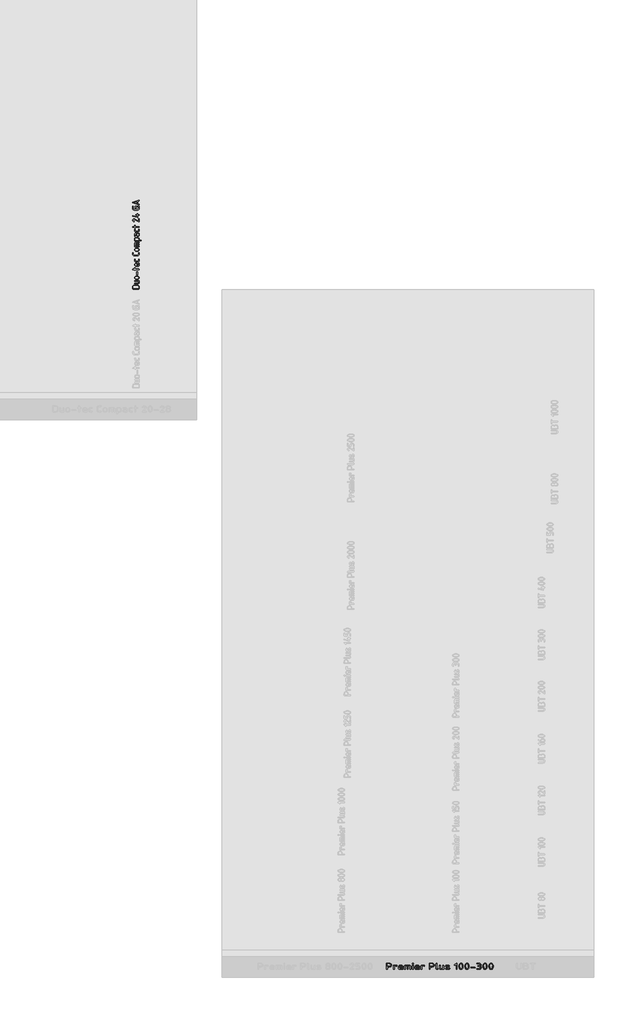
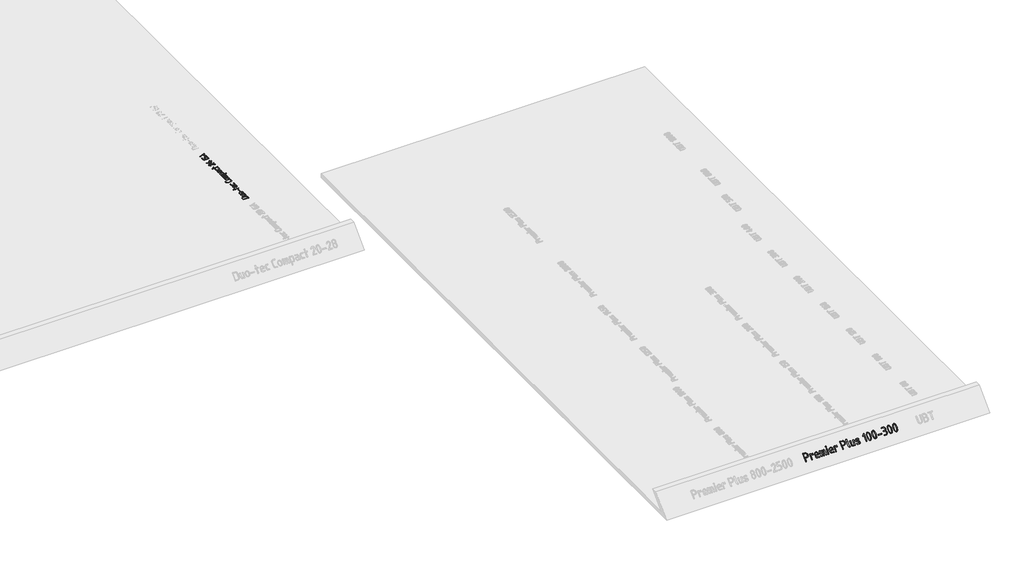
# One storey, part 28 of 37: 2 proxies.
"""IFC4 building model written with IfcOpenShell, lengths in millimetres."""

from ifc_helpers import new_model, si_unit, frame, origin, place, context, project, spatial, polyline, outline, extrude, element, save

model = new_model("IFC4")

# Units and contexts
model_context = context("Model", 3, world=origin())
ifc_project = project(units=[si_unit("LENGTHUNIT", "METRE", prefix="MILLI")], contexts=[model_context])

# Site, building, storey
site = spatial("IfcSite", under=ifc_project)
building = spatial("IfcBuilding", under=site)
storey = spatial("IfcBuildingStorey", under=building, Name="01_Стартовый вид_Площадка", Elevation=0.0)

# Proxies
placement = place(None, origin())
element("IfcBuildingElementProxy", 1, Name="150 мм", ObjectType="150 мм", at=placement, inside=storey, context=model_context, shape_type="SweptSolid", body=[
    extrude(outline(polyline([(25779.2874063, -2242.2009827), (25773.6242667, -2240.3332453), (25771.7365535, -2234.7300331), (25771.7365535, -2189.9842387), (25774.4632504, -2175.5117709), (25782.6433409, -2163.4963266), (25794.7986158, -2155.4061271), (25809.4508659, -2152.709394), (25884.8794906, -2152.709394), (25899.3819222, -2155.4360908), (25911.5671608, -2163.6161814), (25919.8371424, -2175.6615894), (25922.593803, -2189.9842387), (25922.593803, -2234.7300331), (25920.7060898, -2240.3332453), (25915.0429502, -2242.2009827), (25779.2874063, -2242.2009827)]), holes=[polyline([(25787.0779687, -2226.8595675), (25907.2523878, -2226.8595675), (25907.2523878, -2190.1040935), (25905.6043842, -2181.62936), (25900.6603734, -2174.5029929), (25893.3791939, -2169.6638551), (25884.7196842, -2168.0508092), (25809.6106723, -2168.0508092), (25800.9511625, -2169.6638551), (25793.6699831, -2174.5029929), (25788.7259723, -2181.62936), (25787.0779687, -2190.1040935), (25787.0779687, -2226.8595675)])]), frame((0.0, 0.0, -10.0), z_axis=(0.0, 0.0, 1.0), x_axis=(1.0, 0.0, 0.0)), (0.0, 0.0, 1.0), 10.0),
    extrude(outline(polyline([(25825.2317487, -2047.8763901), (25915.1228534, -2047.8763901), (25920.7260656, -2049.7341396), (25922.593803, -2055.3073881), (25922.593803, -2092.3824749), (25920.4264285, -2103.8785484), (25913.9243053, -2113.4369692), (25904.2660055, -2119.879165), (25892.6301014, -2122.0265636), (25825.2317487, -2122.0265636), (25819.6285365, -2120.1088867), (25817.7607991, -2114.355856), (25819.6285365, -2108.6028253), (25825.2317487, -2106.6851484), (25892.3504402, -2106.6851484), (25902.8377357, -2102.410327), (25907.2523878, -2092.1827169), (25907.2523878, -2063.2178053), (25825.2317487, -2063.2178053), (25819.6285365, -2061.3001284), (25817.7607991, -2055.5470977), (25819.6285365, -2049.794067), (25825.2317487, -2047.8763901)])), frame((0.0, 0.0, -10.0), z_axis=(0.0, 0.0, 1.0), x_axis=(1.0, 0.0, 0.0)), (0.0, 0.0, 1.0), 10.0),
    extrude(outline(polyline([(25885.1591518, -2017.1935598), (25855.1954503, -2017.1935598), (25840.8028856, -2014.4818448), (25828.7075381, -2006.3466998), (25820.4974839, -1994.3662131), (25817.7607991, -1980.118473), (25820.4675201, -1965.7209144), (25828.5876833, -1953.7703915), (25840.6530671, -1945.7251376), (25855.1954503, -1943.0433863), (25885.1591518, -1943.0433863), (25899.5517165, -1945.7551013), (25911.647064, -1953.8902463), (25919.8571182, -1965.8707329), (25922.593803, -1980.118473), (25919.8571182, -1994.3662131), (25911.647064, -2006.3466998), (25899.5517165, -2014.4818448), (25885.1591518, -2017.1935598)]), holes=[polyline([(25884.7196842, -1958.3848015), (25854.716031, -1958.3848015), (25846.086485, -1959.9778716), (25838.8152934, -1964.757082), (25833.8712826, -1971.78357), (25832.2232791, -1980.118473), (25833.8712826, -1988.453376), (25838.8152934, -1995.479864), (25846.086485, -2000.2590744), (25854.716031, -2001.8521446), (25884.7196842, -2001.8521446), (25893.4291334, -2000.2740563), (25900.700325, -1995.5397914), (25905.6143721, -1988.5282853), (25907.2523878, -1980.118473), (25905.6043842, -1971.78357), (25900.6603734, -1964.757082), (25893.3791939, -1959.9778716), (25884.7196842, -1958.3848015)])]), frame((0.0, 0.0, -10.0), z_axis=(0.0, 0.0, 1.0), x_axis=(1.0, 0.0, 0.0)), (0.0, 0.0, 1.0), 10.0),
    extrude(outline(polyline([(25884.240265, -1845.2019128), (25884.240265, -1905.2092191), (25882.3225881, -1910.842395), (25876.5695574, -1912.7201203), (25870.8165267, -1910.842395), (25868.8988498, -1905.2092191), (25868.8988498, -1845.2019128), (25870.8165267, -1839.5687369), (25876.5695574, -1837.6910116), (25882.3225881, -1839.5687369), (25884.240265, -1845.2019128)])), frame((0.0, 0.0, -10.0), z_axis=(0.0, 0.0, 1.0), x_axis=(1.0, 0.0, 0.0)), (0.0, 0.0, 1.0), 10.0),
    extrude(outline(polyline([(25833.1022143, -1792.1861369), (25833.1022143, -1799.697038), (25831.1845374, -1805.3302139), (25825.4315067, -1807.2079392), (25819.678476, -1805.3302139), (25817.7607991, -1799.697038), (25817.7607991, -1792.1861369), (25779.4072611, -1792.1861369), (25773.6542304, -1790.26846), (25771.7365535, -1784.5154293), (25773.6542304, -1778.7623986), (25779.4072611, -1776.8447217), (25817.7607991, -1776.8447217), (25817.7607991, -1754.3120181), (25819.678476, -1748.7088059), (25825.4315067, -1746.8410685), (25831.1845374, -1748.7088059), (25833.1022143, -1754.3120181), (25833.1022143, -1776.8447217), (25915.1228534, -1776.8447217), (25920.7260656, -1778.7623986), (25922.593803, -1784.5154293), (25920.7260656, -1790.26846), (25915.1228534, -1792.1861369), (25833.1022143, -1792.1861369)])), frame((0.0, 0.0, -10.0), z_axis=(0.0, 0.0, 1.0), x_axis=(1.0, 0.0, 0.0)), (0.0, 0.0, 1.0), 10.0),
    extrude(outline(polyline([(25876.5695574, -1702.6945482), (25891.9109726, -1702.6945482), (25902.7178809, -1698.2599204), (25907.2523878, -1687.7126974), (25907.2523878, -1650.1981431), (25909.1700647, -1644.5649672), (25914.9230954, -1642.6872419), (25920.6761261, -1644.5649672), (25922.593803, -1650.1981431), (25922.593803, -1687.7126974), (25920.4264285, -1699.3685773), (25913.9243053, -1709.1667077), (25904.2660055, -1715.8186495), (25892.6301014, -1718.0359634), (25855.1954503, -1718.0359634), (25840.8028856, -1715.2543331), (25828.7075381, -1706.9094422), (25820.4974839, -1694.6692701), (25817.7607991, -1680.2017962), (25820.4175806, -1665.6244554), (25828.3879253, -1653.5341018), (25840.2335753, -1645.3989569), (25854.516273, -1642.6872419), (25876.5695574, -1642.6872419), (25876.5695574, -1702.6945482)]), holes=[polyline([(25831.224489, -1680.2017962), (25832.8724926, -1688.8313423), (25837.8165034, -1696.1025339), (25845.0876949, -1701.0465446), (25853.717241, -1702.6945482), (25861.2281422, -1702.6945482), (25861.2281422, -1657.7090443), (25853.717241, -1657.7090443), (25845.0876949, -1659.3570479), (25837.8165034, -1664.3010586), (25832.8724926, -1671.5722502), (25831.224489, -1680.2017962)])]), frame((0.0, 0.0, -10.0), z_axis=(0.0, 0.0, 1.0), x_axis=(1.0, 0.0, 0.0)), (0.0, 0.0, 1.0), 10.0),
    extrude(outline(polyline([(25847.9242587, -1597.8615444), (25892.4303434, -1597.8615444), (25902.8776873, -1593.4269165), (25907.2523878, -1582.8796936), (25907.2523878, -1560.34699), (25909.1700647, -1554.7437778), (25914.9230954, -1552.8760404), (25920.6761261, -1554.7437778), (25922.593803, -1560.34699), (25922.593803, -1582.8796936), (25920.4264285, -1594.5355735), (25913.9243053, -1604.3337039), (25904.2660055, -1610.9856456), (25892.6301014, -1613.2029596), (25847.7245007, -1613.2029596), (25836.0885966, -1610.9856456), (25826.4302968, -1604.3337039), (25819.9281735, -1594.5355735), (25817.7607991, -1582.8796936), (25817.7607991, -1560.34699), (25819.678476, -1554.7437778), (25825.4315067, -1552.8760404), (25831.1845374, -1554.7437778), (25833.1022143, -1560.34699), (25833.1022143, -1582.8796936), (25837.4369631, -1593.4868439), (25847.9242587, -1597.8615444)])), frame((0.0, 0.0, -10.0), z_axis=(0.0, 0.0, 1.0), x_axis=(1.0, 0.0, 0.0)), (0.0, 0.0, 1.0), 10.0),
    extrude(outline(polyline([(25771.7365535, -1404.7354999), (25773.6542304, -1399.102324), (25779.4072611, -1397.2245987), (25785.1602918, -1399.102324), (25787.0779687, -1404.7354999), (25787.0779687, -1434.7391531), (25788.7259723, -1443.4436084), (25793.6699831, -1450.6998181), (25800.9511625, -1455.5988833), (25809.6106723, -1457.231905), (25884.7196842, -1457.231905), (25893.3791939, -1455.5839015), (25900.6603734, -1450.6398907), (25905.6043842, -1443.3686991), (25907.2523878, -1434.7391531), (25907.2523878, -1404.7354999), (25909.1700647, -1399.102324), (25914.9230954, -1397.2245987), (25920.6761261, -1399.102324), (25922.593803, -1404.7354999), (25922.593803, -1434.7391531), (25919.8371424, -1449.206627), (25911.5671608, -1461.4467991), (25899.3819222, -1469.7916899), (25884.8794906, -1472.5733202), (25809.4508659, -1472.5733202), (25794.9484343, -1469.7916899), (25782.7631957, -1461.4467991), (25774.4932141, -1449.206627), (25771.7365535, -1434.7391531), (25771.7365535, -1404.7354999)])), frame((0.0, 0.0, -10.0), z_axis=(0.0, 0.0, 1.0), x_axis=(1.0, 0.0, 0.0)), (0.0, 0.0, 1.0), 10.0),
    extrude(outline(polyline([(25885.1591518, -1367.7403164), (25855.1954503, -1367.7403164), (25840.8028856, -1365.0286014), (25828.7075381, -1356.8934564), (25820.4974839, -1344.9129698), (25817.7607991, -1330.6652297), (25820.4675201, -1316.2676711), (25828.5876833, -1304.3171481), (25840.6530671, -1296.2718942), (25855.1954503, -1293.5901429), (25885.1591518, -1293.5901429), (25899.5517165, -1296.3018579), (25911.647064, -1304.4370029), (25919.8571182, -1316.4174896), (25922.593803, -1330.6652297), (25919.8571182, -1344.9129698), (25911.647064, -1356.8934564), (25899.5517165, -1365.0286014), (25885.1591518, -1367.7403164)]), holes=[polyline([(25884.7196842, -1308.9315581), (25854.716031, -1308.9315581), (25846.086485, -1310.5246283), (25838.8152934, -1315.3038387), (25833.8712826, -1322.3303267), (25832.2232791, -1330.6652297), (25833.8712826, -1339.0001326), (25838.8152934, -1346.0266207), (25846.086485, -1350.8058311), (25854.716031, -1352.3989012), (25884.7196842, -1352.3989012), (25893.4291334, -1350.8208129), (25900.700325, -1346.0865481), (25905.6143721, -1339.0750419), (25907.2523878, -1330.6652297), (25905.6043842, -1322.3303267), (25900.6603734, -1315.3038387), (25893.3791939, -1310.5246283), (25884.7196842, -1308.9315581)])]), frame((0.0, 0.0, -10.0), z_axis=(0.0, 0.0, 1.0), x_axis=(1.0, 0.0, 0.0)), (0.0, 0.0, 1.0), 10.0),
    extrude(outline(polyline([(25817.7607991, -1255.2366049), (25817.7607991, -1186.2002366), (25819.9281735, -1174.2996531), (25826.4302968, -1164.4066376), (25836.0885966, -1157.739714), (25847.7245007, -1155.5174062), (25915.1228534, -1155.5174062), (25920.7260656, -1157.4350831), (25922.593803, -1163.1881138), (25920.7260656, -1168.9411445), (25915.1228534, -1170.8588214), (25848.0041619, -1170.8588214), (25837.3970115, -1175.2734734), (25833.1022143, -1186.2002366), (25833.1022143, -1201.5416518), (25915.1228534, -1201.5416518), (25920.7260656, -1203.4593287), (25922.593803, -1209.2123594), (25920.7260656, -1214.9653901), (25915.1228534, -1216.883067), (25833.1022143, -1216.883067), (25833.1022143, -1247.5658973), (25915.1228534, -1247.5658973), (25920.7260656, -1249.4835742), (25922.593803, -1255.2366049), (25920.7260656, -1260.9896356), (25915.1228534, -1262.9073125), (25825.2317487, -1262.9073125), (25819.6285365, -1260.9896356), (25817.7607991, -1255.2366049)])), frame((0.0, 0.0, -10.0), z_axis=(0.0, 0.0, 1.0), x_axis=(1.0, 0.0, 0.0)), (0.0, 0.0, 1.0), 10.0),
    extrude(outline(polyline([(25825.3116519, -1124.8345758), (25819.6485123, -1122.9768263), (25817.7607991, -1117.4035778), (25817.7607991, -1080.3284911), (25819.9281735, -1068.8324176), (25826.4302968, -1059.2739968), (25836.0885966, -1052.8318009), (25847.7245007, -1050.6844023), (25892.6301014, -1050.6844023), (25904.1910963, -1052.8168191), (25913.8643779, -1059.2140694), (25920.4114467, -1068.6975809), (25922.593803, -1080.0887814), (25922.593803, -1109.4931606), (25960.947341, -1109.4931606), (25966.7003717, -1111.4108375), (25968.6180486, -1117.1638682), (25966.7303354, -1122.9168989), (25961.0671958, -1124.8345758), (25825.3116519, -1124.8345758)]), holes=[polyline([(25833.1022143, -1109.4931606), (25907.2523878, -1109.4931606), (25907.2523878, -1080.5282491), (25902.9176389, -1070.2606873), (25892.4303434, -1066.0258175), (25847.9242587, -1066.0258175), (25837.3770357, -1070.2007599), (25833.1022143, -1080.5282491), (25833.1022143, -1109.4931606)])]), frame((0.0, 0.0, -10.0), z_axis=(0.0, 0.0, 1.0), x_axis=(1.0, 0.0, 0.0)), (0.0, 0.0, 1.0), 10.0),
    extrude(outline(polyline([(25922.593803, -991.1964668), (25920.3714951, -1002.8123951), (25913.7045715, -1012.4906707), (25903.811556, -1019.0227577), (25891.9109726, -1021.20012), (25876.4497026, -1017.2049598), (25865.0335323, -1006.4479909), (25861.2281422, -991.1964668), (25861.2281422, -961.1928137), (25847.1651782, -961.1928137), (25837.1573019, -965.5075867), (25833.1022143, -976.1746644), (25833.1022143, -1006.1783176), (25831.1845374, -1011.8114935), (25825.4315067, -1013.6892188), (25819.678476, -1011.8114935), (25817.7607991, -1006.1783176), (25817.7607991, -976.1746644), (25819.9281735, -964.4938148), (25826.4302968, -954.7006783), (25836.0885966, -948.0637184), (25847.7245007, -945.8513985), (25915.1228534, -945.8513985), (25920.7260656, -947.7690754), (25922.593803, -953.5221061), (25922.593803, -991.1964668)]), holes=[polyline([(25876.5695574, -961.1928137), (25876.5695574, -991.1964668), (25881.0441368, -1001.8036172), (25891.9109726, -1006.1783176), (25902.7178809, -1001.7436898), (25907.2523878, -991.1964668), (25907.2523878, -961.1928137), (25876.5695574, -961.1928137)])]), frame((0.0, 0.0, -10.0), z_axis=(0.0, 0.0, 1.0), x_axis=(1.0, 0.0, 0.0)), (0.0, 0.0, 1.0), 10.0),
    extrude(outline(polyline([(25847.9242587, -899.8271529), (25892.4303434, -899.8271529), (25902.8776873, -895.392525), (25907.2523878, -884.8453021), (25907.2523878, -862.3125985), (25909.1700647, -856.7093863), (25914.9230954, -854.8416489), (25920.6761261, -856.7093863), (25922.593803, -862.3125985), (25922.593803, -884.8453021), (25920.4264285, -896.501182), (25913.9243053, -906.2993124), (25904.2660055, -912.9512542), (25892.6301014, -915.1685681), (25847.7245007, -915.1685681), (25836.0885966, -912.9512542), (25826.4302968, -906.2993124), (25819.9281735, -896.501182), (25817.7607991, -884.8453021), (25817.7607991, -862.3125985), (25819.678476, -856.7093863), (25825.4315067, -854.8416489), (25831.1845374, -856.7093863), (25833.1022143, -862.3125985), (25833.1022143, -884.8453021), (25837.4369631, -895.4524524), (25847.9242587, -899.8271529)])), frame((0.0, 0.0, -10.0), z_axis=(0.0, 0.0, 1.0), x_axis=(1.0, 0.0, 0.0)), (0.0, 0.0, 1.0), 10.0),
    extrude(outline(polyline([(25833.1022143, -810.3355642), (25833.1022143, -817.8464654), (25831.1845374, -823.4796413), (25825.4315067, -825.3573666), (25819.678476, -823.4796413), (25817.7607991, -817.8464654), (25817.7607991, -810.3355642), (25779.4072611, -810.3355642), (25773.6542304, -808.4178873), (25771.7365535, -802.6648566), (25773.6542304, -796.9118259), (25779.4072611, -794.994149), (25817.7607991, -794.994149), (25817.7607991, -772.4614454), (25819.678476, -766.8582333), (25825.4315067, -764.9904959), (25831.1845374, -766.8582333), (25833.1022143, -772.4614454), (25833.1022143, -794.994149), (25915.1228534, -794.994149), (25920.7260656, -796.9118259), (25922.593803, -802.6648566), (25920.7260656, -808.4178873), (25915.1228534, -810.3355642), (25833.1022143, -810.3355642)])), frame((0.0, 0.0, -10.0), z_axis=(0.0, 0.0, 1.0), x_axis=(1.0, 0.0, 0.0)), (0.0, 0.0, 1.0), 10.0),
    extrude(outline(polyline([(25771.7365535, -647.8923502), (25774.4882201, -633.4648279), (25782.7432199, -621.3445106), (25794.9034888, -613.1194745), (25809.3709627, -610.3777958), (25820.1678831, -612.0857268), (25831.0646826, -617.2095198), (25907.2523878, -664.472265), (25907.2523878, -617.888697), (25909.1700647, -612.2555211), (25914.9230954, -610.3777958), (25920.6761261, -612.2555211), (25922.593803, -617.888697), (25922.593803, -677.8960033), (25920.7160777, -683.5291792), (25915.0829018, -685.4069045), (25910.7281771, -684.1284533), (25822.1155237, -629.1550488), (25809.6506239, -625.3995982), (25800.9861202, -627.0476018), (25793.6899589, -631.9916125), (25788.7309662, -639.2628041), (25787.0779687, -647.8923502), (25791.7922578, -660.1275283), (25805.9351249, -671.4238438), (25809.5707207, -677.8960033), (25807.6929954, -683.5291792), (25802.0598195, -685.4069045), (25798.9835461, -684.6877757), (25778.5483017, -668.5173647), (25773.4394906, -658.7616829), (25771.7365535, -647.8923502)])), frame((0.0, 0.0, -10.0), z_axis=(0.0, 0.0, 1.0), x_axis=(1.0, 0.0, 0.0)), (0.0, 0.0, 1.0), 10.0),
    extrude(outline(polyline([(25884.4000714, -581.6126423), (25882.3625397, -581.3729327), (25777.209923, -551.3692796), (25773.1048959, -548.7524496), (25771.7365535, -544.098088), (25773.6042909, -538.4649121), (25779.2075031, -536.5871868), (25781.3648896, -536.9467512), (25876.5695574, -564.1937438), (25876.5695574, -529.0762856), (25854.0368538, -529.0762856), (25848.4336416, -527.1586087), (25846.5659042, -521.405578), (25848.4336416, -515.6525473), (25854.0368538, -513.7348704), (25876.5695574, -513.7348704), (25876.5695574, -498.713068), (25878.4872343, -493.1098558), (25884.240265, -491.2421184), (25889.9932957, -493.1098558), (25891.9109726, -498.713068), (25891.9109726, -513.7348704), (25914.9230954, -513.7348704), (25920.6761261, -515.6525473), (25922.593803, -521.405578), (25920.6761261, -527.1586087), (25914.9230954, -529.0762856), (25891.9109726, -529.0762856), (25891.9109726, -574.1017411), (25890.0332473, -579.734917), (25884.4000714, -581.6126423)])), frame((0.0, 0.0, -10.0), z_axis=(0.0, 0.0, 1.0), x_axis=(1.0, 0.0, 0.0)), (0.0, 0.0, 1.0), 10.0),
    extrude(outline(polyline([(25907.2523878, -371.507167), (25907.2523878, -334.7516931), (25848.4436295, -334.7516931), (25848.4436295, -349.7734955), (25846.5259526, -355.3767077), (25840.7729219, -357.2444451), (25835.0198912, -355.3767077), (25833.1022143, -349.7734955), (25833.1022143, -327.0809855), (25834.9699517, -321.3279548), (25840.5731639, -319.4102779), (25915.1228534, -319.4102779), (25920.7260656, -321.2780153), (25922.593803, -326.8812275), (25922.593803, -371.6270218), (25919.8371424, -385.9496712), (25911.5671608, -397.9950792), (25899.3819222, -406.1751697), (25884.8794906, -408.9018665), (25809.4508659, -408.9018665), (25794.9484343, -406.1751697), (25782.7631957, -397.9950792), (25774.4932141, -385.9496712), (25771.7365535, -371.6270218), (25771.7365535, -326.8812275), (25773.6542304, -321.2780153), (25779.4072611, -319.4102779), (25785.1602918, -321.2680274), (25787.0779687, -326.8412759), (25787.0779687, -371.307409), (25788.7259723, -379.9319611), (25793.6699831, -387.1082676), (25800.9511625, -391.9474054), (25809.6106723, -393.5604514), (25884.7196842, -393.5604514), (25893.4291334, -391.9573933), (25900.700325, -387.1482192), (25905.6143721, -380.0318401), (25907.2523878, -371.507167)])), frame((0.0, 0.0, -10.0), z_axis=(0.0, 0.0, 1.0), x_axis=(1.0, 0.0, 0.0)), (0.0, 0.0, 1.0), 10.0),
    extrude(outline(polyline([(25915.0429502, -184.0542501), (25920.7060898, -185.9319754), (25922.593803, -191.5651512), (25921.285388, -196.0896702), (25917.3601431, -198.716488), (25884.240265, -209.5034206), (25884.240265, -263.5978898), (25917.3601431, -274.424774), (25921.285388, -277.0515918), (25922.593803, -281.5761107), (25920.7060898, -287.2092866), (25915.0429502, -289.0870119), (25912.645854, -288.7274475), (25777.809197, -244.0615564), (25773.2547144, -241.1650652), (25771.7365535, -236.5506552), (25773.194787, -231.9961726), (25777.5694874, -229.1995604), (25912.645854, -184.4138145), (25915.0429502, -184.0542501)]), holes=[polyline([(25802.7389967, -236.5506552), (25868.8988498, -258.6039395), (25868.8988498, -214.5373224), (25802.7389967, -236.5506552)])]), frame((0.0, 0.0, -10.0), z_axis=(0.0, 0.0, 1.0), x_axis=(1.0, 0.0, 0.0)), (0.0, 0.0, 1.0), 10.0),
])
element("IfcBuildingElementProxy", 2, Name="200мм", ObjectType="200мм", at=placement, inside=storey, context=model_context, shape_type="SweptSolid", body=[
    extrude(outline(polyline([(7.8835354, 0.0), (54.9822836, -15.8674928), (75.3551695, -27.452775), (89.3245979, -46.3241219), (95.3595376, -69.2676232), (91.9289573, -93.0693684), (80.131763, -115.1766267), (62.1553061, -129.8058847), (40.1087194, -135.8689668), (16.101136, -132.2776977), (-21.3557465, -119.6585341), (-43.2607097, -184.6780281), (-48.0307567, -190.8280684), (-56.082337, -190.701191), (-62.5480184, -185.8669629), (-62.5603687, -177.8949509), (-4.770722, -6.3606026), (0.0, 0.0), (7.8835354, 0.0)]), holes=[polyline([(11.2976149, -22.7350648), (-14.8250742, -100.2738402), (22.3289223, -112.790962), (37.668322, -114.8320671), (52.4892795, -110.4450815), (64.7838935, -100.6679697), (72.5442635, -86.5386961), (74.9157894, -70.5939297), (71.0438717, -55.3703393), (61.8989869, -42.9093), (48.4516114, -35.2521866), (11.2976149, -22.7350648)])]), frame((31672.2732822, -17888.306847, 243.3672278), z_axis=(0.0, -0.7071067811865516, 0.7071067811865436), x_axis=(0.9476648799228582, 0.22575570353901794, 0.2257557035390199)), (0.0, 0.0, 1.0), 10.0),
    extrude(outline(polyline([(119.8548062, 0.0), (127.3257559, -2.5569025), (129.8160724, -10.2276101), (129.8160724, -70.474626), (127.2591699, -77.9455756), (119.5884622, -80.4358922), (99.3463172, -80.4358922), (91.835416, -77.9455756), (89.3317822, -70.474626), (91.835416, -62.9637248), (99.3463172, -60.4600911), (109.3608521, -60.4600911), (109.3608521, -20.4552202), (0.0, -20.4552202), (-7.4709496, -17.8983177), (-9.9612661, -10.2276101), (-7.4709496, -2.5569025), (0.0, 0.0), (119.8548062, 0.0)])), frame((31830.0155244, -18021.7129939, 109.9610809), z_axis=(0.0, -0.7071067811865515, 0.7071067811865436), x_axis=(0.0, 0.7071067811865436, 0.7071067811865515)), (0.0, 0.0, 1.0), 10.0),
    extrude(outline(polyline([(80.0097418, 0.0), (80.0097418, 20.4552203), (74.0969047, 34.8644314), (67.6247451, 39.3989382), (60.0339407, 40.9104406), (10.0145349, 40.9104406), (2.5036337, 43.4673431), (0.0, 51.1380507), (2.5036337, 58.8087583), (10.0145349, 61.3656608), (60.0339407, 61.3656608), (75.5751139, 58.4758283), (88.6392878, 49.8063306), (97.5085435, 36.9285976), (100.464962, 21.4140588), (100.464962, -28.4988094), (96.7561216, -47.6888956), (85.6296005, -63.8160257), (69.309371, -74.7627647), (50.0194058, -78.4116777), (30.5829514, -74.8693022), (14.46248, -64.2421761), (3.61562, -48.4479761), (0.0, -29.4043791), (0.0, 0.0), (80.0097418, 0.0)]), holes=[polyline([(50.0194058, -60.4600911), (61.5254672, -58.2627529), (71.2203893, -51.6707387), (77.8124036, -41.9758165), (80.0097418, -30.4697552), (80.0097418, -20.4552202), (20.0290698, -20.4552202), (20.0290698, -30.4697552), (22.226408, -41.9758165), (28.8184223, -51.6707387), (38.5133444, -58.2627529), (50.0194058, -60.4600911)])]), frame((32049.8026046, -17985.3645978, 146.309477), z_axis=(0.0, -0.7071067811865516, 0.7071067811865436), x_axis=(-1.0, 0.0, 0.0)), (0.0, 0.0, 1.0), 10.0),
    extrude(outline(polyline([(8.0648268, 0.0), (95.6150095, -28.42341), (109.8146858, -36.0716859), (119.6837275, -48.3906322), (124.1620708, -63.3839269), (122.1896523, -79.055248), (94.4406404, -164.5281405), (89.7017561, -170.8444538), (81.6369293, -170.8444538), (75.110059, -166.1072188), (74.9850442, -158.2118271), (102.618915, -73.0935939), (103.6105119, -65.2736839), (101.3875031, -57.8242881), (96.4501455, -51.7058984), (89.2986962, -47.8790062), (69.8431, -41.5626929), (36.0738519, -145.5792005), (31.3349676, -151.8955138), (23.2701408, -151.8955138), (16.7432705, -147.1582788), (16.6182557, -139.2628871), (50.3875038, -35.2463795), (11.4763115, -22.6137529), (-22.2929366, -126.6302605), (-27.0318209, -132.9465738), (-35.0966477, -132.9465738), (-41.623518, -128.2093388), (-41.7485328, -120.3139471), (-4.7388844, -6.3163134), (0.0, 0.0), (8.0648268, 0.0)])), frame((32091.6718836, -17931.6800885, 199.9939863), z_axis=(0.0, -0.7071067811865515, 0.7071067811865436), x_axis=(0.951131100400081, 0.21834563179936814, 0.21834563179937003)), (0.0, 0.0, 1.0), 10.0),
    extrude(outline(polyline([(-40.4252129, 16.4627758), (-34.1768363, 11.6346677), (-34.2913698, 3.5706542), (-39.1208191, -2.8882816), (-47.0171899, -2.9011566), (-160.6290118, 35.7752083), (-166.9152084, 40.6161914), (-166.8132817, 48.6844966), (-161.9712257, 55.1391407), (-154.0370348, 55.1391407), (-40.4252129, 16.4627758)])), frame((32275.7688659, -17906.0007942, 225.6732806), z_axis=(0.0, -0.7071067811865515, 0.7071067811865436), x_axis=(-0.322263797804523, 0.6693825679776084, 0.6693825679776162)), (0.0, 0.0, 1.0), 10.0),
    extrude(outline(polyline([(7.934191, 0.0), (17.4144495, -3.2273221), (23.7006464, -8.0683052), (23.5987196, -16.1366103), (18.7566637, -22.5912544), (10.8224726, -22.5912545), (1.342214, -19.3639324), (-4.9439827, -14.5229493), (-4.842056, -6.4546441), (0.0, 0.0), (7.934191, 0.0)])), frame((32275.7688659, -17906.0007942, 225.6732806), z_axis=(0.0, -0.7071067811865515, 0.7071067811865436), x_axis=(-0.322263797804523, 0.6693825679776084, 0.6693825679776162)), (0.0, 0.0, 1.0), 10.0),
    extrude(outline(polyline([(80.0097417, 0.0), (80.0097417, 20.4552203), (74.0969046, 34.8644314), (67.6247451, 39.3989382), (60.0339407, 40.9104406), (10.0145349, 40.9104406), (2.5036337, 43.4673431), (0.0, 51.1380507), (2.5036337, 58.8087583), (10.0145349, 61.3656608), (60.0339407, 61.3656608), (75.5751139, 58.4758283), (88.6392878, 49.8063306), (97.5085434, 36.9285976), (100.464962, 21.4140588), (100.464962, -28.4988094), (96.7561216, -47.6888956), (85.6296004, -63.8160257), (69.309371, -74.7627647), (50.0194058, -78.4116777), (30.5829514, -74.8693022), (14.4624799, -64.2421761), (3.61562, -48.4479761), (0.0, -29.4043791), (0.0, 0.0), (80.0097417, 0.0)]), holes=[polyline([(50.0194058, -60.4600911), (61.5254672, -58.2627529), (71.2203893, -51.6707387), (77.8124036, -41.9758165), (80.0097417, -30.4697552), (80.0097417, -20.4552202), (20.0290698, -20.4552202), (20.0290698, -30.4697552), (22.2264079, -41.9758165), (28.8184223, -51.6707387), (38.5133444, -58.2627529), (50.0194058, -60.4600911)])]), frame((32435.0425862, -17985.3645978, 146.309477), z_axis=(0.0, -0.7071067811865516, 0.7071067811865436), x_axis=(-1.0, 0.0, 0.0)), (0.0, 0.0, 1.0), 10.0),
    extrude(outline(polyline([(119.8548062, 0.0), (127.3257559, -2.5569025), (129.8160724, -10.2276101), (129.8160724, -70.474626), (127.2591699, -77.9455756), (119.5884622, -80.4358921), (99.3463172, -80.4358921), (91.835416, -77.9455756), (89.3317822, -70.474626), (91.835416, -62.9637248), (99.3463172, -60.4600911), (109.3608521, -60.4600911), (109.3608521, -20.4552202), (0.0, -20.4552202), (-7.4709496, -17.8983177), (-9.9612661, -10.2276101), (-7.4709496, -2.5569025), (0.0, 0.0), (119.8548062, 0.0)])), frame((32474.3549627, -18021.7129939, 109.9610809), z_axis=(0.0, -0.7071067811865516, 0.7071067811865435), x_axis=(0.0, 0.7071067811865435, 0.7071067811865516)), (0.0, 0.0, 1.0), 10.0),
    extrude(outline(polyline([(7.8835354, 0.0), (54.9822837, -15.8674928), (75.3551696, -27.452775), (89.324598, -46.3241219), (95.3595377, -69.2676232), (91.9289574, -93.0693684), (80.1317631, -115.1766267), (62.1553062, -129.8058847), (40.1087195, -135.8689668), (16.101136, -132.2776977), (-21.3557464, -119.6585341), (-43.2607096, -184.6780281), (-48.0307567, -190.8280684), (-56.082337, -190.701191), (-62.5480184, -185.8669629), (-62.5603687, -177.8949509), (-4.7707219, -6.3606027), (0.0, 0.0), (7.8835354, 0.0)]), holes=[polyline([(11.2976149, -22.7350648), (-14.8250741, -100.2738402), (22.3289224, -112.790962), (37.6683221, -114.8320671), (52.4892795, -110.4450816), (64.7838936, -100.6679697), (72.5442636, -86.5386962), (74.9157895, -70.5939297), (71.0438718, -55.3703394), (61.898987, -42.9093), (48.4516115, -35.2521866), (11.2976149, -22.7350648)])]), frame((32664.3514649, -17888.306847, 243.3672278), z_axis=(0.0, -0.7071067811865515, 0.7071067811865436), x_axis=(0.9476648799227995, 0.2257557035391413, 0.22575570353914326)), (0.0, 0.0, 1.0), 10.0),
    extrude(outline(polyline([(160.9250532, 0.0), (168.475906, -2.5569026), (170.9928569, -10.2276102), (168.475906, -17.8983178), (160.9250532, -20.4552203), (0.0, -20.4552203), (-6.3656219, -22.9521954), (-10.0145348, -30.4431208), (-13.676765, -37.9340462), (-20.0823386, -40.4310213), (-27.6331914, -37.9407048), (-30.1501423, -30.4697552), (-28.1525623, -18.1713204), (-22.159822, -8.4431053), (-12.6247063, -2.1107764), (0.0, 0.0), (160.9250532, 0.0)])), frame((32822.0937071, -18007.4373026, 124.2367722), z_axis=(0.0, -0.7071067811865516, 0.7071067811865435), x_axis=(0.0, 0.7071067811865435, 0.7071067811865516)), (0.0, 0.0, 1.0), 10.0),
    extrude(outline(polyline([(7.8963814, 0.0), (121.2937943, -38.8098097), (127.5601636, -43.5725011), (127.5101016, -51.4095223), (111.5032112, -98.1796552), (103.8057301, -111.7461767), (91.4765408, -120.9968587), (76.5112492, -124.9537749), (60.9054608, -122.6389988), (-24.1173995, -93.5402659), (-30.3578956, -88.7019762), (-30.230214, -80.6381602), (-25.39024, -74.1871074), (-17.4938586, -74.1871074), (67.1762096, -103.1650987), (82.2515299, -102.3002329), (92.2362968, -91.3041201), (104.7416799, -54.7649537), (1.2728405, -19.3531584), (-4.9676556, -14.5148688), (-4.8399741, -6.4510528), (0.0, 0.0), (7.8963814, 0.0)])), frame((32996.8153802, -17931.6800885, 199.9939863), z_axis=(0.0, -0.7071067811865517, 0.7071067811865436), x_axis=(0.32380687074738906, -0.6690101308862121, -0.66901013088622)), (0.0, 0.0, 1.0), 10.0),
    extrude(outline(polyline([(6.7166797, 0.0), (14.145986, 3.991335), (17.9066814, 11.4469663), (29.6493207, 67.1668895), (38.4046143, 84.8875475), (55.5030995, 94.2526303), (71.1497951, 94.3948957), (84.6580761, 86.6684244), (93.8591896, 74.7388044), (99.8206793, 58.8938008), (102.0852659, 37.6922648), (98.3024968, 17.4558513), (90.8058995, 10.1994258), (83.2482825, 11.3993597), (78.7037421, 17.5560285), (78.7833768, 22.4004929), (81.562566, 38.3210255), (79.9479029, 54.0472767), (71.9400433, 71.257438), (66.3413128, 74.6828079), (59.679382, 74.6550374), (52.4154312, 70.7725664), (48.7367866, 63.5425582), (36.8363564, 7.345513), (28.0526652, -10.258703), (10.9447143, -19.5849718), (-5.3034403, -19.8465044), (-18.8565291, -12.0487156), (-27.780888, 0.2636712), (-33.8184082, 16.9262908), (-37.3451104, 43.3030289), (-34.2943684, 66.5410597), (-26.7308632, 74.1976129), (-19.1732461, 72.997679), (-14.6287057, 66.8410102), (-14.4571319, 62.9899205), (-16.5086244, 47.7951572), (-13.8067991, 21.2035426), (-5.659473, 3.5339237), (0.0, 0.0), (6.7166797, 0.0)])), frame((33118.2216403, -18008.3601375, 123.3139373), z_axis=(0.0, -0.7071067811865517, 0.7071067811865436), x_axis=(0.23693335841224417, 0.6869725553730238, 0.6869725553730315)), (0.0, 0.0, 1.0), 10.0),
    extrude(outline(polyline([(156.7700866, 0.0), (133.7046949, 23.0121228), (130.8281795, 29.9903359), (133.3318133, 37.5012371), (140.8427145, 40.0048709), (147.8209276, 37.0750867), (187.1333041, -2.0242145), (191.0751955, -10.2276102), (188.5582446, -17.8983178), (181.0073918, -20.4552203), (0.0, -20.4552203), (-7.5508528, -17.8983178), (-10.0678037, -10.2276102), (-7.5508528, -2.5569026), (0.0, 0.0), (156.7700866, 0.0)])), frame((33289.1545698, -18021.6376604, 110.0364144), z_axis=(0.0, -0.7071067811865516, 0.7071067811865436), x_axis=(0.0, 0.7071067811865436, 0.7071067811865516)), (0.0, 0.0, 1.0), 10.0),
    extrude(outline(polyline([(33.5896076, 1e-07), (66.8986549, -4.3323324), (95.0632351, -12.6820124), (111.3579665, -21.0737201), (122.7383843, -31.0621998), (129.2044885, -42.6474517), (130.756279, -55.8294758), (127.5272211, -68.701894), (119.65078, -79.358328), (107.1269556, -87.7987777), (89.9557479, -94.0232433), (60.9096189, -98.6679788), (27.200407, -98.6602332), (-6.2282446, -94.3201553), (-34.4326928, -85.9678933), (-50.6576551, -77.580704), (-61.9882377, -67.5954516), (-68.4244409, -56.012136), (-69.9662644, -42.8307573), (-66.7272396, -29.9589846), (-58.8208973, -19.3044871), (-46.2472377, -10.8672646), (-29.0062608, -4.6473172), (0.0, 0.0), (33.5896076, 1e-07)]), holes=[polyline([(32.267704, -20.412462), (-14.8413307, -22.4862152), (-40.3558734, -30.709274), (-46.9944147, -36.7784264), (-49.5538024, -44.1526609), (-47.9524235, -51.7262833), (-42.1189923, -58.553072), (-17.7559726, -69.9661482), (28.5223105, -78.2477711), (75.6313453, -76.1740181), (101.145888, -67.9509591), (107.7844292, -61.8818067), (110.343817, -54.5075723), (108.7569234, -46.8648261), (102.9566205, -39.9901388), (78.715787, -28.5449399), (32.267704, -20.412462)])]), frame((33447.2164248, -17933.9400924, 197.7339824), z_axis=(0.0, -0.7071067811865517, 0.7071067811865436), x_axis=(0.06462426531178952, -0.7056286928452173, -0.7056286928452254)), (0.0, 0.0, 1.0), 10.0),
    extrude(outline(polyline([(33.5896076, 0.0), (66.8986549, -4.3323324), (95.0632351, -12.6820124), (111.3579665, -21.0737201), (122.7383843, -31.0621998), (129.2044885, -42.6474518), (130.756279, -55.8294759), (127.5272211, -68.701894), (119.65078, -79.358328), (107.1269556, -87.7987777), (89.9557479, -94.0232434), (60.9096189, -98.6679788), (27.200407, -98.6602332), (-6.2282446, -94.3201553), (-34.4326928, -85.9678934), (-50.6576551, -77.580704), (-61.9882377, -67.5954516), (-68.4244409, -56.012136), (-69.9662644, -42.8307574), (-66.7272396, -29.9589847), (-58.8208973, -19.3044871), (-46.2472377, -10.8672646), (-29.0062608, -4.6473172), (0.0, 0.0), (33.5896076, 0.0)]), holes=[polyline([(32.267704, -20.412462), (-14.8413307, -22.4862152), (-40.3558734, -30.709274), (-46.9944147, -36.7784265), (-49.5538024, -44.152661), (-47.9524235, -51.7262833), (-42.1189923, -58.5530721), (-17.7559726, -69.9661483), (28.5223105, -78.2477712), (75.6313453, -76.1740181), (101.145888, -67.9509592), (107.7844292, -61.8818067), (110.343817, -54.5075724), (108.7569234, -46.8648262), (102.9566205, -39.9901388), (78.715787, -28.5449399), (32.267704, -20.412462)])]), frame((33586.9937633, -17933.9400924, 197.7339824), z_axis=(0.0, -0.7071067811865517, 0.7071067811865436), x_axis=(0.06462426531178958, -0.7056286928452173, -0.7056286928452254)), (0.0, 0.0, 1.0), 10.0),
    extrude(outline(polyline([(7.934191, 0.0), (83.6754056, -25.7842433), (89.9616023, -30.6252263), (89.8596756, -38.6935315), (85.0176196, -45.1481755), (77.0834286, -45.1481756), (1.3422141, -19.3639324), (-4.9439827, -14.5229492), (-4.842056, -6.4546442), (0.0, 0.0), (7.934191, 0.0)])), frame((33727.1306662, -17990.7886072, 140.8854676), z_axis=(0.0, -0.7071067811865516, 0.7071067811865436), x_axis=(-0.9466499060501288, -0.22787491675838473, -0.22787491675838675)), (0.0, 0.0, 1.0), 10.0),
    extrude(outline(polyline([(11.7053441, 0.0), (31.3410585, 3.6703332), (39.1938897, 2.537007), (43.0643072, -4.5430921), (42.0127056, -12.5432216), (35.0994796, -16.4366383), (15.4637652, -20.1069715), (4.465269, -24.4320899), (-3.8154004, -32.787719), (-8.4170172, -43.720687), (-8.3783556, -55.7778225), (-4.051707, -66.9657026), (4.2497875, -75.5003522), (15.0165565, -80.3362529), (26.7390288, -80.4278863), (66.0628195, -73.0774324), (73.9156508, -74.2107585), (77.7860684, -81.2908578), (76.7344667, -89.2909872), (69.8212407, -93.1844039), (30.49745, -100.5348579), (10.8458725, -100.387662), (-7.2665742, -92.3117812), (-21.2427031, -78.0977852), (-28.4853272, -59.5362437), (-27.7768506, -36.0744134), (-16.3140932, -15.6421797), (-34.2831279, -1.2668369), (-43.2938982, 19.6873188), (-46.9348688, 39.1659475), (-46.775927, 58.6097289), (-38.7235342, 76.4129585), (-24.658181, 90.0971197), (-6.4603584, 97.183696), (32.8634323, 104.5341499), (40.7162636, 103.4008238), (44.5866812, 96.3207245), (43.5350795, 88.3205951), (36.6218535, 84.4271784), (-2.7019372, 77.0767244), (-13.7175616, 72.8432393), (-22.0496157, 64.7625103), (-26.7270861, 54.235347), (-26.7789594, 42.6625593), (-23.1771391, 23.3933781), (-18.9410254, 12.6898457), (-10.7153844, 4.5610008), (0.0, 0.0), (11.7053441, 0.0)])), frame((33829.7796491, -17960.368013, 171.3060618), z_axis=(0.0, -0.7071067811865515, 0.7071067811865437), x_axis=(-0.9829750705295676, 0.12992307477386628, 0.12992307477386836)), (0.0, 0.0, 1.0), 10.0),
    extrude(outline(polyline([(33.5896076, 0.0), (66.8986549, -4.3323324), (95.0632351, -12.6820124), (111.3579665, -21.0737201), (122.7383843, -31.0621998), (129.2044885, -42.6474518), (130.756279, -55.8294759), (127.5272211, -68.701894), (119.65078, -79.358328), (107.1269556, -87.7987777), (89.9557479, -94.0232434), (60.9096189, -98.6679788), (27.200407, -98.6602332), (-6.2282446, -94.3201553), (-34.4326928, -85.9678934), (-50.6576551, -77.580704), (-61.9882377, -67.5954516), (-68.4244409, -56.012136), (-69.9662644, -42.8307574), (-66.7272396, -29.9589847), (-58.8208973, -19.3044871), (-46.2472377, -10.8672646), (-29.0062608, -4.6473172), (0.0, 0.0), (33.5896076, 0.0)]), holes=[polyline([(32.267704, -20.412462), (-14.8413307, -22.4862152), (-40.3558734, -30.709274), (-46.9944147, -36.7784265), (-49.5538024, -44.152661), (-47.9524235, -51.7262833), (-42.1189923, -58.5530721), (-17.7559726, -69.9661483), (28.5223105, -78.2477712), (75.6313453, -76.1740181), (101.145888, -67.9509592), (107.7844292, -61.8818067), (110.343817, -54.5075724), (108.7569234, -46.8648262), (102.9566205, -39.9901388), (78.715787, -28.5449399), (32.267704, -20.412462)])]), frame((34006.3257787, -17933.9400924, 197.7339824), z_axis=(0.0, -0.7071067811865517, 0.7071067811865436), x_axis=(0.06462426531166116, -0.7056286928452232, -0.7056286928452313)), (0.0, 0.0, 1.0), 10.0),
    extrude(outline(polyline([(33.5896076, 0.0), (66.8986549, -4.3323324), (95.0632351, -12.6820125), (111.3579665, -21.0737201), (122.7383843, -31.0621998), (129.2044885, -42.6474518), (130.756279, -55.8294759), (127.5272211, -68.7018941), (119.65078, -79.358328), (107.1269556, -87.7987777), (89.9557479, -94.0232434), (60.9096189, -98.6679788), (27.2004069, -98.6602333), (-6.2282446, -94.3201553), (-34.4326928, -85.9678934), (-50.6576551, -77.580704), (-61.9882377, -67.5954516), (-68.4244409, -56.0121361), (-69.9662644, -42.8307574), (-66.7272396, -29.9589847), (-58.8208973, -19.3044871), (-46.2472377, -10.8672646), (-29.0062608, -4.6473173), (0.0, 0.0), (33.5896076, 0.0)]), holes=[polyline([(32.267704, -20.4124621), (-14.8413307, -22.4862152), (-40.3558734, -30.7092741), (-46.9944147, -36.7784265), (-49.5538024, -44.152661), (-47.9524236, -51.7262834), (-42.1189923, -58.5530721), (-17.7559726, -69.9661483), (28.5223105, -78.2477712), (75.6313453, -76.1740181), (101.145888, -67.9509592), (107.7844292, -61.8818068), (110.343817, -54.5075724), (108.7569234, -46.8648262), (102.9566205, -39.9901389), (78.715787, -28.5449399), (32.267704, -20.4124621)])]), frame((34146.1031172, -17933.9400924, 197.7339824), z_axis=(0.0, -0.7071067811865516, 0.7071067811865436), x_axis=(0.06462426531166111, -0.7056286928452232, -0.7056286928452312)), (0.0, 0.0, 1.0), 10.0),
])

save(model, "model.ifc")
